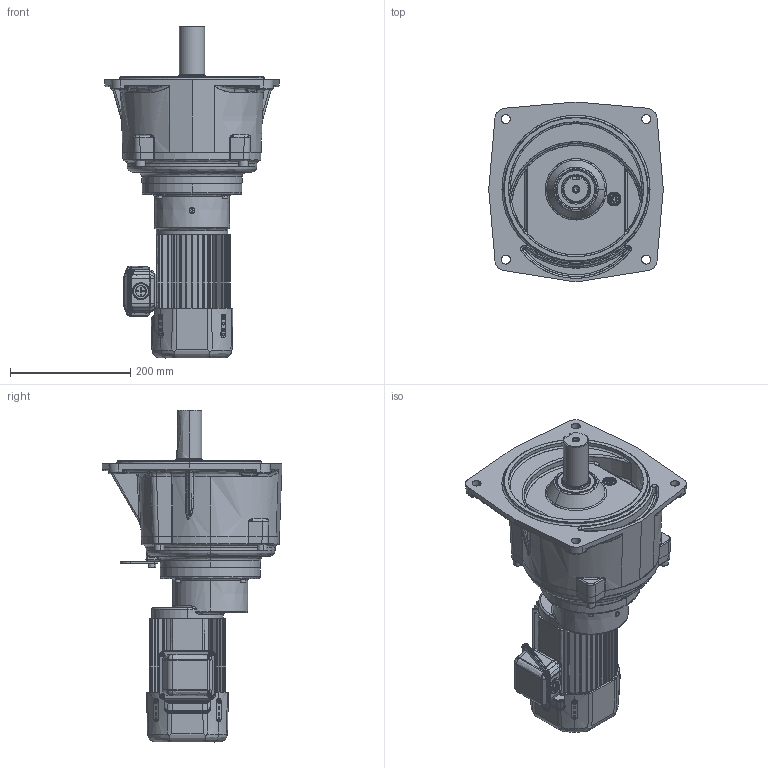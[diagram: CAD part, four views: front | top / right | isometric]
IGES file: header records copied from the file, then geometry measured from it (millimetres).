
Start section: SolidWorks IGES file using analytic representation for surfaces
Global section: file name: \\100.100.100.8\1_共有作業フォルダ\1-5_３Ｄデータ\solidworks\personal-folder\H.Nagayama\SGP1外形\P1(3D)\igs\TMFB2-04-(300~450).IGS; native system: SolidWorks 2018; preprocessor: SolidWorks 2018; author: sigma-giken; date: 200722.110140; units: millimetre
Bounding box: 290 x 299 x 551.5 mm (x, y, z)
Surface area: 817248.3 mm2 (no closed solid volume)
Topology: 0 solids, 0 shells, 2108 faces, 27274 edges, 27197 vertices
Faces by surface type: bspline 1107, revolution 1001
